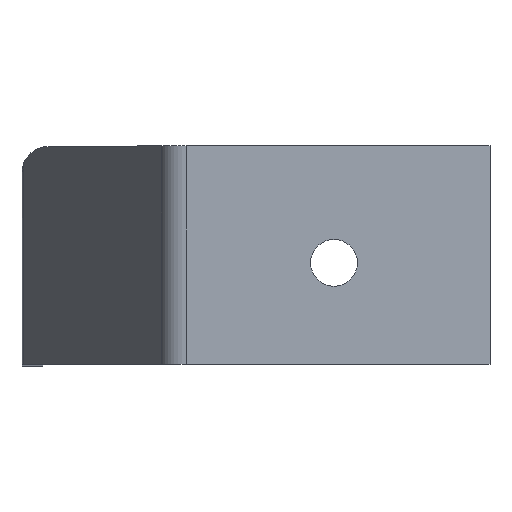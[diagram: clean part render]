
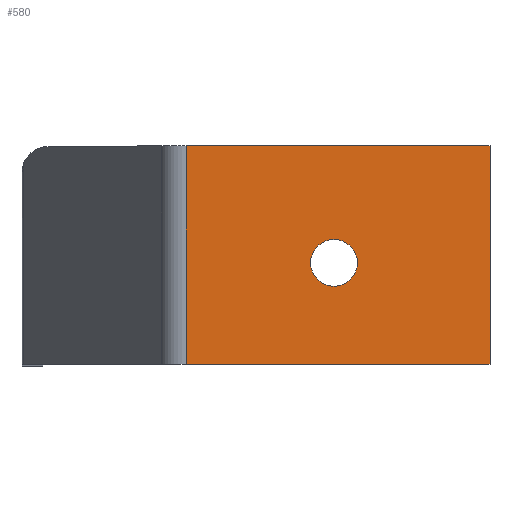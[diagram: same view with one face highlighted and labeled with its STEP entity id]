
A CAD part, top view. The second image highlights one B-rep face of the part: STEP entity #580.
In plain terms, the highlighted planar face has unit normal (0, 0, 1).
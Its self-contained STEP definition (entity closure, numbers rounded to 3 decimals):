
#17=DIRECTION('',(1.,0.,0.));
#18=VECTOR('',#17,58.453);
#19=CARTESIAN_POINT('',(31.547,0.,0.));
#20=LINE('',#19,#18);
#30=DIRECTION('',(0.,-1.,0.));
#31=VECTOR('',#30,42.);
#32=CARTESIAN_POINT('',(31.547,0.,0.));
#33=LINE('',#32,#31);
#63=DIRECTION('',(1.,0.,0.));
#64=VECTOR('',#63,58.453);
#65=CARTESIAN_POINT('',(31.547,-42.,0.));
#66=LINE('',#65,#64);
#85=CARTESIAN_POINT('',(60.,-22.5,0.));
#86=DIRECTION('',(0.,0.,-1.));
#87=DIRECTION('',(0.,-1.,0.));
#88=AXIS2_PLACEMENT_3D('',#85,#86,#87);
#90=CARTESIAN_POINT('',(60.,-22.5,0.));
#91=DIRECTION('',(0.,0.,-1.));
#92=DIRECTION('',(0.,1.,0.));
#93=AXIS2_PLACEMENT_3D('',#90,#91,#92);
#99=DIRECTION('',(0.,-1.,0.));
#100=VECTOR('',#99,42.);
#101=CARTESIAN_POINT('',(90.,0.,0.));
#102=LINE('',#101,#100);
#345=CARTESIAN_POINT('',(90.,0.,0.));
#347=VERTEX_POINT('',#345);
#351=CARTESIAN_POINT('',(90.,-42.,0.));
#352=VERTEX_POINT('',#351);
#395=CARTESIAN_POINT('',(60.,-27.,0.));
#396=CARTESIAN_POINT('',(60.,-18.,0.));
#397=VERTEX_POINT('',#395);
#398=VERTEX_POINT('',#396);
#407=CARTESIAN_POINT('',(31.547,0.,0.));
#408=VERTEX_POINT('',#407);
#409=CARTESIAN_POINT('',(31.547,-42.,0.));
#410=VERTEX_POINT('',#409);
#563=CARTESIAN_POINT('',(28.,0.,0.));
#564=DIRECTION('',(0.,0.,1.));
#565=DIRECTION('',(1.,0.,0.));
#566=AXIS2_PLACEMENT_3D('',#563,#564,#565);
#567=PLANE('',#566);
#568=ORIENTED_EDGE('',*,*,#474,.F.);
#569=ORIENTED_EDGE('',*,*,#461,.T.);
#571=ORIENTED_EDGE('',*,*,#570,.T.);
#572=ORIENTED_EDGE('',*,*,#520,.F.);
#573=EDGE_LOOP('',(#568,#569,#571,#572));
#574=FACE_OUTER_BOUND('',#573,.F.);
#575=ORIENTED_EDGE('',*,*,#553,.F.);
#577=ORIENTED_EDGE('',*,*,#576,.F.);
#578=EDGE_LOOP('',(#575,#577));
#579=FACE_BOUND('',#578,.F.);
#580=ADVANCED_FACE('',(#574,#579),#567,.T.);
#89=CIRCLE('',#88,4.5);
#94=CIRCLE('',#93,4.5);
#461=EDGE_CURVE('',#408,#347,#20,.T.);
#474=EDGE_CURVE('',#408,#410,#33,.T.);
#520=EDGE_CURVE('',#410,#352,#66,.T.);
#553=EDGE_CURVE('',#397,#398,#89,.T.);
#570=EDGE_CURVE('',#347,#352,#102,.T.);
#576=EDGE_CURVE('',#398,#397,#94,.T.);
